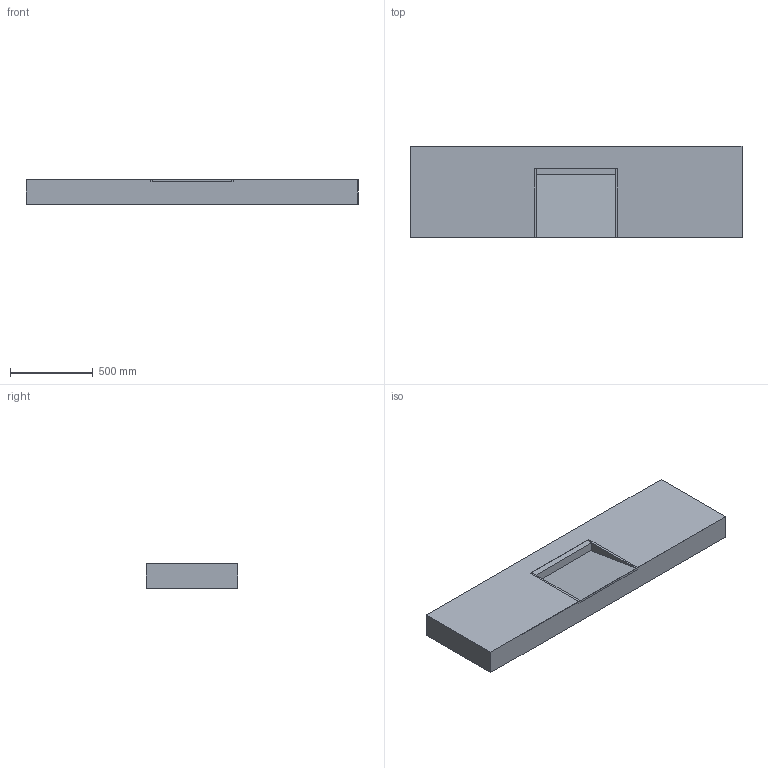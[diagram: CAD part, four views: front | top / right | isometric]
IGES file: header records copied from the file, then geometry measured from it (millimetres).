
Start section:  Autodesk Design for Windows version 2010 IGES version 5.3  Autodesk Design for Windows version 2010 IGES version 5.3
Global section: file name: D:\Desktop\GIOVANNI\SCHEDE PRODOTTO\PIANI LAVABO\SLIM\3D\MOMA DESIGN_PIANI LAVABO_SLIM SYSTEM.igs; native system: Rhinoceros ( Jan 17 2018 ); preprocessor: Trout Lake IGES 012 Jan 17 2018; date: 230607.082040; units: millimetre
Bounding box: 2000 x 550 x 150 mm (x, y, z)
Surface area: 3760404.3 mm2 (no closed solid volume)
Topology: 0 solids, 0 shells, 39 faces, 202 edges, 202 vertices
Faces by surface type: bspline 39
